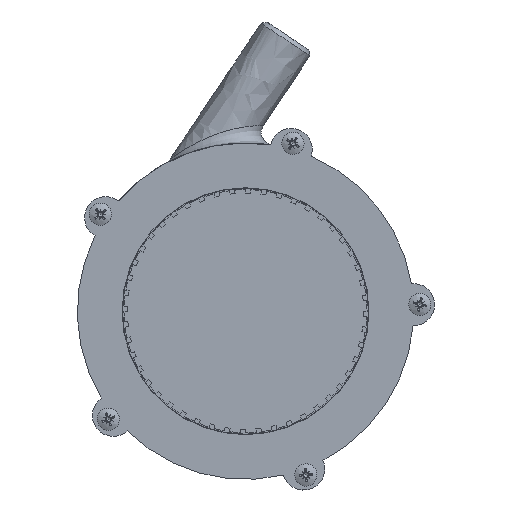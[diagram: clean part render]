
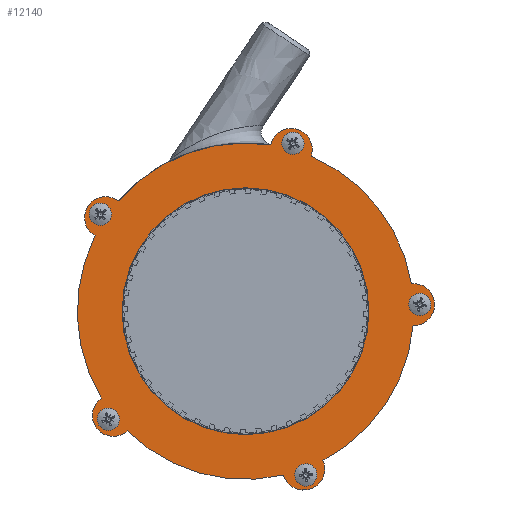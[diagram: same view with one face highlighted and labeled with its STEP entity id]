
A CAD part, front view. The second image highlights one B-rep face of the part: STEP entity #12140.
In plain terms, the highlighted planar face has unit normal (0, -1, 0) as drawn and (0, 0, 1) by its records, which use the part's own axes.
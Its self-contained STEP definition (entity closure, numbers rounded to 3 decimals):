
#733=FACE_BOUND('',#2380,.T.);
#734=FACE_BOUND('',#2381,.T.);
#735=FACE_BOUND('',#2382,.T.);
#736=FACE_BOUND('',#2383,.T.);
#737=FACE_BOUND('',#2384,.T.);
#738=FACE_BOUND('',#2385,.T.);
#1002=PLANE('',#13527);
#1630=FACE_OUTER_BOUND('',#2379,.T.);
#2379=EDGE_LOOP('',(#10930,#10931,#10932,#10933,#10934,#10935,#10936,#10937,
#10938,#10939));
#2380=EDGE_LOOP('',(#10940));
#2381=EDGE_LOOP('',(#10941));
#2382=EDGE_LOOP('',(#10942));
#2383=EDGE_LOOP('',(#10943));
#2384=EDGE_LOOP('',(#10944));
#2385=EDGE_LOOP('',(#10945));
#3049=CIRCLE('',#13526,25.8);
#3050=CIRCLE('',#13528,5.);
#3051=CIRCLE('',#13529,40.);
#3052=CIRCLE('',#13530,5.);
#3053=CIRCLE('',#13531,40.);
#3054=CIRCLE('',#13532,5.);
#3055=CIRCLE('',#13533,40.);
#3056=CIRCLE('',#13534,5.);
#3057=CIRCLE('',#13535,40.);
#3058=CIRCLE('',#13536,5.);
#3059=CIRCLE('',#13537,40.);
#3060=CIRCLE('',#13538,1.5);
#3061=CIRCLE('',#13539,1.5);
#3062=CIRCLE('',#13540,1.5);
#3063=CIRCLE('',#13541,1.5);
#3064=CIRCLE('',#13542,1.5);
#5744=VERTEX_POINT('',#28844);
#5745=VERTEX_POINT('',#28848);
#5746=VERTEX_POINT('',#28849);
#5747=VERTEX_POINT('',#28851);
#5748=VERTEX_POINT('',#28853);
#5749=VERTEX_POINT('',#28855);
#5750=VERTEX_POINT('',#28857);
#5751=VERTEX_POINT('',#28859);
#5752=VERTEX_POINT('',#28861);
#5753=VERTEX_POINT('',#28863);
#5754=VERTEX_POINT('',#28865);
#5755=VERTEX_POINT('',#28868);
#5756=VERTEX_POINT('',#28870);
#5757=VERTEX_POINT('',#28872);
#5758=VERTEX_POINT('',#28874);
#5759=VERTEX_POINT('',#28876);
#7494=EDGE_CURVE('',#5744,#5744,#3049,.T.);
#7495=EDGE_CURVE('',#5745,#5746,#3050,.T.);
#7496=EDGE_CURVE('',#5746,#5747,#3051,.T.);
#7497=EDGE_CURVE('',#5747,#5748,#3052,.T.);
#7498=EDGE_CURVE('',#5748,#5749,#3053,.T.);
#7499=EDGE_CURVE('',#5749,#5750,#3054,.T.);
#7500=EDGE_CURVE('',#5750,#5751,#3055,.T.);
#7501=EDGE_CURVE('',#5751,#5752,#3056,.T.);
#7502=EDGE_CURVE('',#5752,#5753,#3057,.T.);
#7503=EDGE_CURVE('',#5753,#5754,#3058,.T.);
#7504=EDGE_CURVE('',#5754,#5745,#3059,.T.);
#7505=EDGE_CURVE('',#5755,#5755,#3060,.T.);
#7506=EDGE_CURVE('',#5756,#5756,#3061,.T.);
#7507=EDGE_CURVE('',#5757,#5757,#3062,.T.);
#7508=EDGE_CURVE('',#5758,#5758,#3063,.T.);
#7509=EDGE_CURVE('',#5759,#5759,#3064,.T.);
#10930=ORIENTED_EDGE('',*,*,#7495,.T.);
#10931=ORIENTED_EDGE('',*,*,#7496,.T.);
#10932=ORIENTED_EDGE('',*,*,#7497,.T.);
#10933=ORIENTED_EDGE('',*,*,#7498,.T.);
#10934=ORIENTED_EDGE('',*,*,#7499,.T.);
#10935=ORIENTED_EDGE('',*,*,#7500,.T.);
#10936=ORIENTED_EDGE('',*,*,#7501,.T.);
#10937=ORIENTED_EDGE('',*,*,#7502,.T.);
#10938=ORIENTED_EDGE('',*,*,#7503,.T.);
#10939=ORIENTED_EDGE('',*,*,#7504,.T.);
#10940=ORIENTED_EDGE('',*,*,#7505,.T.);
#10941=ORIENTED_EDGE('',*,*,#7506,.T.);
#10942=ORIENTED_EDGE('',*,*,#7507,.T.);
#10943=ORIENTED_EDGE('',*,*,#7508,.T.);
#10944=ORIENTED_EDGE('',*,*,#7509,.T.);
#10945=ORIENTED_EDGE('',*,*,#7494,.F.);
#12140=ADVANCED_FACE('',(#1630,#733,#734,#735,#736,#737,#738),#1002,.T.);
#13526=AXIS2_PLACEMENT_3D('',#28846,#16764,#16765);
#13527=AXIS2_PLACEMENT_3D('',#28847,#16766,#16767);
#13528=AXIS2_PLACEMENT_3D('',#28850,#16768,#16769);
#13529=AXIS2_PLACEMENT_3D('',#28852,#16770,#16771);
#13530=AXIS2_PLACEMENT_3D('',#28854,#16772,#16773);
#13531=AXIS2_PLACEMENT_3D('',#28856,#16774,#16775);
#13532=AXIS2_PLACEMENT_3D('',#28858,#16776,#16777);
#13533=AXIS2_PLACEMENT_3D('',#28860,#16778,#16779);
#13534=AXIS2_PLACEMENT_3D('',#28862,#16780,#16781);
#13535=AXIS2_PLACEMENT_3D('',#28864,#16782,#16783);
#13536=AXIS2_PLACEMENT_3D('',#28866,#16784,#16785);
#13537=AXIS2_PLACEMENT_3D('',#28867,#16786,#16787);
#13538=AXIS2_PLACEMENT_3D('',#28869,#16788,#16789);
#13539=AXIS2_PLACEMENT_3D('',#28871,#16790,#16791);
#13540=AXIS2_PLACEMENT_3D('',#28873,#16792,#16793);
#13541=AXIS2_PLACEMENT_3D('',#28875,#16794,#16795);
#13542=AXIS2_PLACEMENT_3D('',#28877,#16796,#16797);
#16764=DIRECTION('center_axis',(0.,0.,1.));
#16765=DIRECTION('ref_axis',(-1.,0.,0.));
#16766=DIRECTION('center_axis',(0.,0.,1.));
#16767=DIRECTION('ref_axis',(1.,0.,0.));
#16768=DIRECTION('center_axis',(0.,0.,1.));
#16769=DIRECTION('ref_axis',(-0.771,0.637,0.));
#16770=DIRECTION('center_axis',(0.,0.,1.));
#16771=DIRECTION('ref_axis',(-0.482,-0.876,0.));
#16772=DIRECTION('center_axis',(0.,0.,1.));
#16773=DIRECTION('ref_axis',(-0.844,-0.536,0.));
#16774=DIRECTION('center_axis',(0.,0.,1.));
#16775=DIRECTION('ref_axis',(0.684,-0.729,0.));
#16776=DIRECTION('center_axis',(0.,0.,1.));
#16777=DIRECTION('ref_axis',(0.249,-0.969,0.));
#16778=DIRECTION('center_axis',(0.,0.,1.));
#16779=DIRECTION('ref_axis',(0.905,0.425,0.));
#16780=DIRECTION('center_axis',(0.,0.,1.));
#16781=DIRECTION('ref_axis',(0.998,-0.063,0.));
#16782=DIRECTION('center_axis',(0.,0.,1.));
#16783=DIRECTION('ref_axis',(-0.125,0.992,0.));
#16784=DIRECTION('center_axis',(0.,0.,1.));
#16785=DIRECTION('ref_axis',(0.368,0.93,0.));
#16786=DIRECTION('center_axis',(0.,0.,1.));
#16787=DIRECTION('ref_axis',(-0.982,0.188,0.));
#16788=DIRECTION('center_axis',(0.,0.,-1.));
#16789=DIRECTION('ref_axis',(-1.,0.,0.));
#16790=DIRECTION('center_axis',(0.,0.,-1.));
#16791=DIRECTION('ref_axis',(-1.,0.,0.));
#16792=DIRECTION('center_axis',(0.,0.,-1.));
#16793=DIRECTION('ref_axis',(-1.,0.,0.));
#16794=DIRECTION('center_axis',(0.,0.,-1.));
#16795=DIRECTION('ref_axis',(-1.,0.,0.));
#16796=DIRECTION('center_axis',(0.,0.,-1.));
#16797=DIRECTION('ref_axis',(-1.,0.,0.));
#28844=CARTESIAN_POINT('',(25.8,0.,2.));
#28846=CARTESIAN_POINT('Origin',(0.,0.,
2.));
#28847=CARTESIAN_POINT('Origin',(0.,2.5,
2.));
#28848=CARTESIAN_POINT('',(-27.365,-29.175,2.));
#28849=CARTESIAN_POINT('',(-19.291,-35.041,2.));
#28850=CARTESIAN_POINT('Origin',(-23.511,-32.361,2.));
#28851=CARTESIAN_POINT('',(19.291,-35.041,2.));
#28852=CARTESIAN_POINT('Origin',(0.,0.,
2.));
#28853=CARTESIAN_POINT('',(27.365,-29.175,2.));
#28854=CARTESIAN_POINT('Origin',(23.511,-32.361,2.));
#28855=CARTESIAN_POINT('',(39.287,7.518,2.));
#28856=CARTESIAN_POINT('Origin',(0.,0.,
2.));
#28857=CARTESIAN_POINT('',(36.203,17.01,2.));
#28858=CARTESIAN_POINT('Origin',(38.042,12.361,2.));
#28859=CARTESIAN_POINT('',(4.99,39.687,2.));
#28860=CARTESIAN_POINT('Origin',(0.,0.,
2.));
#28861=CARTESIAN_POINT('',(-4.99,39.687,2.));
#28862=CARTESIAN_POINT('Origin',(0.,40.,
2.));
#28863=CARTESIAN_POINT('',(-36.203,17.01,2.));
#28864=CARTESIAN_POINT('Origin',(0.,0.,
2.));
#28865=CARTESIAN_POINT('',(-39.287,7.518,2.));
#28866=CARTESIAN_POINT('Origin',(-38.042,12.361,2.));
#28867=CARTESIAN_POINT('Origin',(0.,0.,
2.));
#28868=CARTESIAN_POINT('',(-37.969,12.824,2.));
#28869=CARTESIAN_POINT('Origin',(-39.469,12.824,2.));
#28870=CARTESIAN_POINT('',(-22.893,-33.574,2.));
#28871=CARTESIAN_POINT('Origin',(-24.393,-33.574,2.));
#28872=CARTESIAN_POINT('',(25.893,-33.574,2.));
#28873=CARTESIAN_POINT('Origin',(24.393,-33.574,2.));
#28874=CARTESIAN_POINT('',(40.969,12.824,2.));
#28875=CARTESIAN_POINT('Origin',(39.469,12.824,2.));
#28876=CARTESIAN_POINT('',(1.5,41.5,2.));
#28877=CARTESIAN_POINT('Origin',(0.,41.5,
2.));
